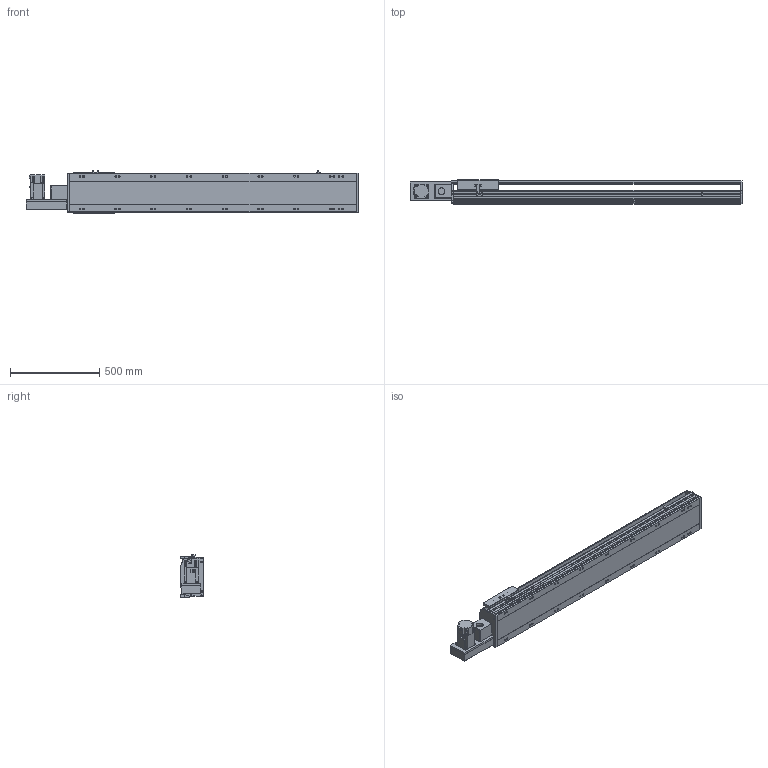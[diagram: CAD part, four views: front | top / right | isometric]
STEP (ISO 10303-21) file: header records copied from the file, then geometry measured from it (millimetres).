
FILE_DESCRIPTION(/* description */ ('STEP AP214'),/* implementation_level */ '2;1');
FILE_NAME(/* name */ 'PBS220-P40-S1250-L-T75-C1-N(0)',/* time_stamp */ '2022-06-11T09:56:00+02:00',/* author */ ('License CC BY-ND 4.0'),/* organization */ ('CADENAS'),/* preprocessor_version */ 'ST-DEVELOPER v18.102',/* originating_system */ 'PARTsolutions',/* authorisation */ ' ');
FILE_SCHEMA (('AUTOMOTIVE_DESIGN {1 0 10303 214 3 1 1}'));
Length unit declared in the file: millimetre
Products named in the file (7): PBS220-P40-S1250-L-T75-C1-N(0); PBS220_sensor; PBS220_plant; PBS220_sliser; T75-p1; PBS220T-L_motors; PBS220-S1250()_body
Assembly tree (8 placements, depth 2):
  PBS220-P40-S1250-L-T75-C1-N(0)
    PBS220_sensor  x3
    PBS220_plant
    PBS220_sliser
    T75-p1
    PBS220T-L_motors
    PBS220-S1250()_body
Bounding box: 1856 x 134 x 238.5 mm (x, y, z)
Volume: 24819032.7 mm3; surface area: 2388462.1 mm2
Topology: 8 solids, 8 shells, 926 faces, 2424 edges, 1576 vertices
Faces by surface type: plane 602, cylinder 282, cone 42
Full cylindrical faces by diameter (mm): 2.013 x4, 4.5 x14, 4.917 x4, 6 x7, 6.647 x8, 8 x10, 8.376 x18, 8.5 x18, 10 x6, 14 x18, 38 x2, 40 x1, 70 x1
Entity records: 25941 total; most frequent: CARTESIAN_POINT 4558, DIRECTION 4509, ORIENTED_EDGE 4142, EDGE_CURVE 2071, AXIS2_PLACEMENT_3D 1581, VERTEX_POINT 1432, LINE 1347, VECTOR 1347
